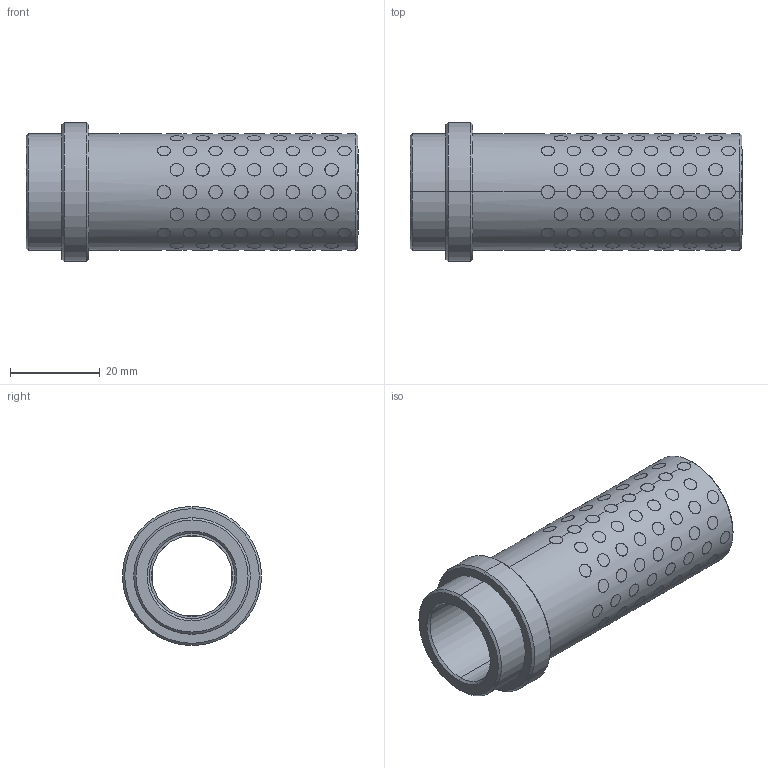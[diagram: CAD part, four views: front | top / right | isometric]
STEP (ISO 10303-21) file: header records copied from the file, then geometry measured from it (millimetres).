
FILE_DESCRIPTION((''),'2;1');
FILE_NAME('G31218066','2017-12-30T',('MANU'),(''),'PRO/ENGINEER BY PARAMETRIC TECHNOLOGY CORPORATION, 2012130','PRO/ENGINEER BY PARAMETRIC TECHNOLOGY CORPORATION, 2012130','');
FILE_SCHEMA(('CONFIG_CONTROL_DESIGN'));
Length unit declared in the file: millimetre
Products named in the file (1): G31218066
Bounding box: 74 x 31 x 31 mm (x, y, z)
Volume: 20844.7 mm3; surface area: 20228 mm2
Topology: 121 solids, 121 shells, 747 faces, 1590 edges, 1056 vertices
Faces by surface type: cylinder 730, cone 12, plane 5
Entity records: 34852 total; most frequent: CARTESIAN_POINT 20331, ORIENTED_EDGE 3180, DIRECTION 2092, EDGE_CURVE 1590, VERTEX_POINT 1056, B_SPLINE_CURVE_WITH_KNOTS 1024, EDGE_LOOP 960, AXIS2_PLACEMENT_3D 779
